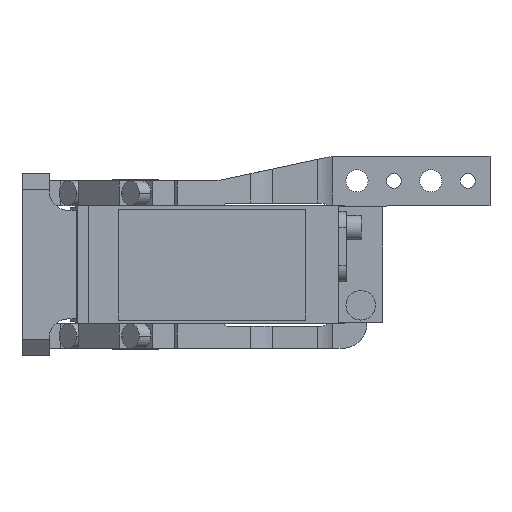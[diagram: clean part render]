
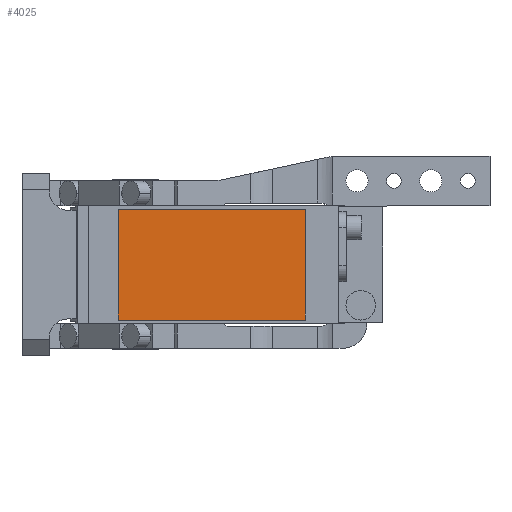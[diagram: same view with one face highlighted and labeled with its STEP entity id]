
A CAD part, front view. The second image highlights one B-rep face of the part: STEP entity #4025.
In plain terms, the highlighted planar face has unit normal (0, -1, 0).
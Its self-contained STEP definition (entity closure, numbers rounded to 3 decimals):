
#237 = VECTOR ( 'NONE', #4114, 1000. ) ;
#353 = CARTESIAN_POINT ( 'NONE',  ( 69., -280.5, 22.5 ) ) ;
#592 = CARTESIAN_POINT ( 'NONE',  ( -7., -280.5, -22.5 ) ) ;
#781 = DIRECTION ( 'NONE',  ( -1., 0., 0. ) ) ;
#1507 = CARTESIAN_POINT ( 'NONE',  ( 69., -280.5, 22.5 ) ) ;
#1871 = VERTEX_POINT ( 'NONE', #8593 ) ;
#2087 = LINE ( 'NONE', #13925, #4707 ) ;
#2451 = EDGE_CURVE ( 'NONE', #1871, #8699, #4902, .T. ) ;
#2959 = VECTOR ( 'NONE', #7247, 1000. ) ;
#3021 = CARTESIAN_POINT ( 'NONE',  ( -7., -280.5, -22.5 ) ) ;
#3588 = VECTOR ( 'NONE', #9637, 1000. ) ;
#3744 = AXIS2_PLACEMENT_3D ( 'NONE', #6403, #14589, #10224 ) ;
#4025 = ADVANCED_FACE ( 'NONE', ( #4328 ), #5567, .T. ) ;
#4114 = DIRECTION ( 'NONE',  ( 0., 0., 1. ) ) ;
#4328 = FACE_OUTER_BOUND ( 'NONE', #14357, .T. ) ;
#4707 = VECTOR ( 'NONE', #781, 1000. ) ;
#4871 = VERTEX_POINT ( 'NONE', #1507 ) ;
#4902 = LINE ( 'NONE', #9557, #3588 ) ;
#5567 = PLANE ( 'NONE',  #3744 ) ;
#6403 = CARTESIAN_POINT ( 'NONE',  ( 0., -280.5, 0. ) ) ;
#6496 = LINE ( 'NONE', #353, #237 ) ;
#6905 = CARTESIAN_POINT ( 'NONE',  ( 69., -280.5, -22.5 ) ) ;
#7247 = DIRECTION ( 'NONE',  ( 1., 0., 0. ) ) ;
#7264 = ORIENTED_EDGE ( 'NONE', *, *, #10469, .T. ) ;
#7437 = ORIENTED_EDGE ( 'NONE', *, *, #12135, .T. ) ;
#8023 = EDGE_CURVE ( 'NONE', #8699, #9839, #11995, .T. ) ;
#8593 = CARTESIAN_POINT ( 'NONE',  ( -7., -280.5, 22.5 ) ) ;
#8699 = VERTEX_POINT ( 'NONE', #3021 ) ;
#9557 = CARTESIAN_POINT ( 'NONE',  ( -7., -280.5, 22.5 ) ) ;
#9637 = DIRECTION ( 'NONE',  ( 0., 0., -1. ) ) ;
#9839 = VERTEX_POINT ( 'NONE', #6905 ) ;
#10224 = DIRECTION ( 'NONE',  ( 0., 0., -1. ) ) ;
#10469 = EDGE_CURVE ( 'NONE', #4871, #1871, #2087, .T. ) ;
#11995 = LINE ( 'NONE', #592, #2959 ) ;
#12135 = EDGE_CURVE ( 'NONE', #9839, #4871, #6496, .T. ) ;
#13925 = CARTESIAN_POINT ( 'NONE',  ( -7., -280.5, 22.5 ) ) ;
#14357 = EDGE_LOOP ( 'NONE', ( #15119, #14446, #7437, #7264 ) ) ;
#14446 = ORIENTED_EDGE ( 'NONE', *, *, #8023, .T. ) ;
#14589 = DIRECTION ( 'NONE',  ( 0., -1., 0. ) ) ;
#15119 = ORIENTED_EDGE ( 'NONE', *, *, #2451, .T. ) ;
